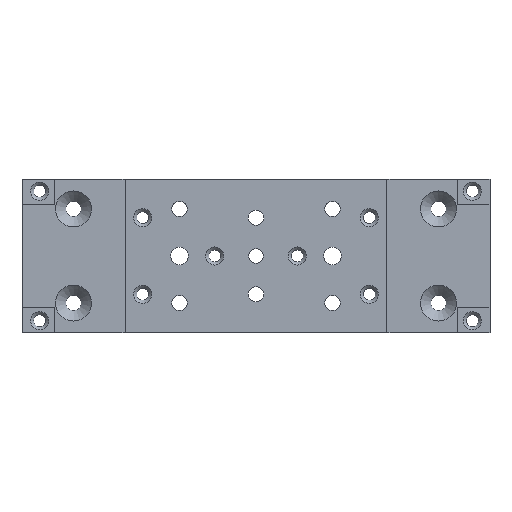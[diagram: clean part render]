
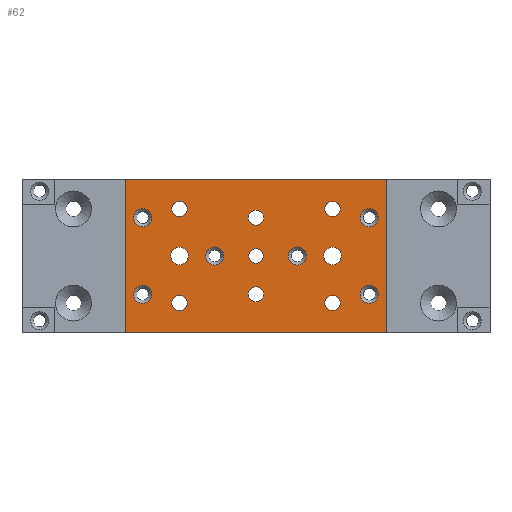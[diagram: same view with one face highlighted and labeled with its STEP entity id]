
A CAD part, top view. The second image highlights one B-rep face of the part: STEP entity #62.
In plain terms, the highlighted planar face has unit normal (0, 0, 1).
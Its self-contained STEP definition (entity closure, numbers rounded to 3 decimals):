
#62=ADVANCED_FACE('',(#637,#639,#641,#643,#645,#647,#649,#651,#653,#655,#657,#659,
#661,#663,#665,#667),#669,.T.);
#637=FACE_BOUND('',#638,.T.);
#638=EDGE_LOOP('',(#1236,#1237,#1238,#1239));
#639=FACE_BOUND('',#640,.T.);
#640=EDGE_LOOP('',(#1240));
#641=FACE_BOUND('',#642,.T.);
#642=EDGE_LOOP('',(#1241));
#643=FACE_BOUND('',#644,.T.);
#644=EDGE_LOOP('',(#1242));
#645=FACE_BOUND('',#646,.T.);
#646=EDGE_LOOP('',(#1243));
#647=FACE_BOUND('',#648,.T.);
#648=EDGE_LOOP('',(#1244));
#649=FACE_BOUND('',#650,.T.);
#650=EDGE_LOOP('',(#1245));
#651=FACE_BOUND('',#652,.T.);
#652=EDGE_LOOP('',(#1246));
#653=FACE_BOUND('',#654,.T.);
#654=EDGE_LOOP('',(#1247));
#655=FACE_BOUND('',#656,.T.);
#656=EDGE_LOOP('',(#1248));
#657=FACE_BOUND('',#658,.T.);
#658=EDGE_LOOP('',(#1249));
#659=FACE_BOUND('',#660,.T.);
#660=EDGE_LOOP('',(#1250));
#661=FACE_BOUND('',#662,.T.);
#662=EDGE_LOOP('',(#1251));
#663=FACE_BOUND('',#664,.T.);
#664=EDGE_LOOP('',(#1252));
#665=FACE_BOUND('',#666,.T.);
#666=EDGE_LOOP('',(#1253));
#667=FACE_BOUND('',#668,.T.);
#668=EDGE_LOOP('',(#1254));
#669=PLANE('',#670);
#670=AXIS2_PLACEMENT_3D('',#671,#672,#673);
#671=CARTESIAN_POINT('',(0.,0.,8.));
#672=DIRECTION('',(0.,0.,1.));
#673=DIRECTION('',(-1.,0.,0.));
#1236=ORIENTED_EDGE('',*,*,#1500,.T.);
#1237=ORIENTED_EDGE('',*,*,#1501,.T.);
#1238=ORIENTED_EDGE('',*,*,#1502,.T.);
#1239=ORIENTED_EDGE('',*,*,#1503,.T.);
#1240=ORIENTED_EDGE('',*,*,#1504,.T.);
#1241=ORIENTED_EDGE('',*,*,#1505,.T.);
#1242=ORIENTED_EDGE('',*,*,#1506,.T.);
#1243=ORIENTED_EDGE('',*,*,#1507,.T.);
#1244=ORIENTED_EDGE('',*,*,#1508,.T.);
#1245=ORIENTED_EDGE('',*,*,#1509,.T.);
#1246=ORIENTED_EDGE('',*,*,#1510,.T.);
#1247=ORIENTED_EDGE('',*,*,#1511,.T.);
#1248=ORIENTED_EDGE('',*,*,#1512,.T.);
#1249=ORIENTED_EDGE('',*,*,#1513,.T.);
#1250=ORIENTED_EDGE('',*,*,#1514,.T.);
#1251=ORIENTED_EDGE('',*,*,#1515,.T.);
#1252=ORIENTED_EDGE('',*,*,#1516,.T.);
#1253=ORIENTED_EDGE('',*,*,#1517,.T.);
#1254=ORIENTED_EDGE('',*,*,#1518,.T.);
#1500=EDGE_CURVE('',#1641,#1642,#1643,.T.);
#1501=EDGE_CURVE('',#1642,#1644,#1645,.F.);
#1502=EDGE_CURVE('',#1644,#1646,#1647,.T.);
#1503=EDGE_CURVE('',#1646,#1641,#1648,.F.);
#1504=EDGE_CURVE('',#1649,#1649,#1650,.F.);
#1505=EDGE_CURVE('',#1651,#1651,#1652,.F.);
#1506=EDGE_CURVE('',#1653,#1653,#1654,.F.);
#1507=EDGE_CURVE('',#1655,#1655,#1656,.F.);
#1508=EDGE_CURVE('',#1657,#1657,#1658,.F.);
#1509=EDGE_CURVE('',#1659,#1659,#1660,.F.);
#1510=EDGE_CURVE('',#1661,#1661,#1662,.F.);
#1511=EDGE_CURVE('',#1663,#1663,#1664,.F.);
#1512=EDGE_CURVE('',#1665,#1665,#1666,.F.);
#1513=EDGE_CURVE('',#1667,#1667,#1668,.F.);
#1514=EDGE_CURVE('',#1669,#1669,#1670,.F.);
#1515=EDGE_CURVE('',#1671,#1671,#1672,.F.);
#1516=EDGE_CURVE('',#1673,#1673,#1674,.F.);
#1517=EDGE_CURVE('',#1675,#1675,#1676,.F.);
#1518=EDGE_CURVE('',#1677,#1677,#1678,.F.);
#1641=VERTEX_POINT('',#1904);
#1642=VERTEX_POINT('',#1905);
#1643=LINE('',#1906,#1907);
#1644=VERTEX_POINT('',#1909);
#1645=LINE('',#1910,#1911);
#1646=VERTEX_POINT('',#1913);
#1647=LINE('',#1914,#1915);
#1648=LINE('',#1917,#1918);
#1649=VERTEX_POINT('',#1920);
#1650=CIRCLE('',#1921,3.067);
#1651=VERTEX_POINT('',#1925);
#1652=CIRCLE('',#1926,3.067);
#1653=VERTEX_POINT('',#1930);
#1654=CIRCLE('',#1931,3.067);
#1655=VERTEX_POINT('',#1935);
#1656=CIRCLE('',#1936,2.5);
#1657=VERTEX_POINT('',#1940);
#1658=CIRCLE('',#1941,2.6);
#1659=VERTEX_POINT('',#1945);
#1660=CIRCLE('',#1946,2.6);
#1661=VERTEX_POINT('',#1950);
#1662=CIRCLE('',#1951,2.6);
#1663=VERTEX_POINT('',#1955);
#1664=CIRCLE('',#1956,2.6);
#1665=VERTEX_POINT('',#1960);
#1666=CIRCLE('',#1961,2.6);
#1667=VERTEX_POINT('',#1965);
#1668=CIRCLE('',#1966,2.6);
#1669=VERTEX_POINT('',#1970);
#1670=CIRCLE('',#1971,3.);
#1671=VERTEX_POINT('',#1975);
#1672=CIRCLE('',#1976,3.);
#1673=VERTEX_POINT('',#1980);
#1674=CIRCLE('',#1981,3.067);
#1675=VERTEX_POINT('',#1985);
#1676=CIRCLE('',#1986,3.067);
#1677=VERTEX_POINT('',#1990);
#1678=CIRCLE('',#1991,3.067);
#1904=CARTESIAN_POINT('',(-44.5,-26.,8.));
#1905=CARTESIAN_POINT('',(44.5,-26.,8.));
#1906=CARTESIAN_POINT('',(-44.5,-26.,8.));
#1907=VECTOR('',#1908,1.);
#1908=DIRECTION('',(1.,0.,0.));
#1909=CARTESIAN_POINT('',(44.5,26.,8.));
#1910=CARTESIAN_POINT('',(44.5,26.,8.));
#1911=VECTOR('',#1912,1.);
#1912=DIRECTION('',(0.,-1.,0.));
#1913=CARTESIAN_POINT('',(-44.5,26.,8.));
#1914=CARTESIAN_POINT('',(44.5,26.,8.));
#1915=VECTOR('',#1916,1.);
#1916=DIRECTION('',(-1.,0.,0.));
#1917=CARTESIAN_POINT('',(-44.5,-26.,8.));
#1918=VECTOR('',#1919,1.);
#1919=DIRECTION('',(0.,1.,0.));
#1920=CARTESIAN_POINT('',(-41.567,-13.,8.));
#1921=AXIS2_PLACEMENT_3D('',#1922,#1923,#1924);
#1922=CARTESIAN_POINT('',(-38.5,-13.,8.));
#1923=DIRECTION('',(0.,0.,1.));
#1924=DIRECTION('',(-1.,0.,0.));
#1925=CARTESIAN_POINT('',(35.433,-13.,8.));
#1926=AXIS2_PLACEMENT_3D('',#1927,#1928,#1929);
#1927=CARTESIAN_POINT('',(38.5,-13.,8.));
#1928=DIRECTION('',(0.,0.,1.));
#1929=DIRECTION('',(-1.,0.,0.));
#1930=CARTESIAN_POINT('',(-14.,-3.067,8.));
#1931=AXIS2_PLACEMENT_3D('',#1932,#1933,#1934);
#1932=CARTESIAN_POINT('',(-14.,0.,8.));
#1933=DIRECTION('',(0.,0.,1.));
#1934=DIRECTION('',(0.,-1.,0.));
#1935=CARTESIAN_POINT('',(0.,-2.5,8.));
#1936=AXIS2_PLACEMENT_3D('',#1937,#1938,#1939);
#1937=CARTESIAN_POINT('',(0.,0.,8.));
#1938=DIRECTION('',(0.,0.,1.));
#1939=DIRECTION('',(0.,-1.,0.));
#1940=CARTESIAN_POINT('',(0.,-15.6,8.));
#1941=AXIS2_PLACEMENT_3D('',#1942,#1943,#1944);
#1942=CARTESIAN_POINT('',(0.,-13.,8.));
#1943=DIRECTION('',(0.,0.,1.));
#1944=DIRECTION('',(0.,-1.,0.));
#1945=CARTESIAN_POINT('',(0.,10.4,8.));
#1946=AXIS2_PLACEMENT_3D('',#1947,#1948,#1949);
#1947=CARTESIAN_POINT('',(0.,13.,8.));
#1948=DIRECTION('',(0.,0.,1.));
#1949=DIRECTION('',(0.,-1.,0.));
#1950=CARTESIAN_POINT('',(-26.,13.4,8.));
#1951=AXIS2_PLACEMENT_3D('',#1952,#1953,#1954);
#1952=CARTESIAN_POINT('',(-26.,16.,8.));
#1953=DIRECTION('',(0.,0.,1.));
#1954=DIRECTION('',(0.,-1.,0.));
#1955=CARTESIAN_POINT('',(26.,13.4,8.));
#1956=AXIS2_PLACEMENT_3D('',#1957,#1958,#1959);
#1957=CARTESIAN_POINT('',(26.,16.,8.));
#1958=DIRECTION('',(0.,0.,1.));
#1959=DIRECTION('',(0.,-1.,0.));
#1960=CARTESIAN_POINT('',(-26.,-18.6,8.));
#1961=AXIS2_PLACEMENT_3D('',#1962,#1963,#1964);
#1962=CARTESIAN_POINT('',(-26.,-16.,8.));
#1963=DIRECTION('',(0.,0.,1.));
#1964=DIRECTION('',(0.,-1.,0.));
#1965=CARTESIAN_POINT('',(26.,-18.6,8.));
#1966=AXIS2_PLACEMENT_3D('',#1967,#1968,#1969);
#1967=CARTESIAN_POINT('',(26.,-16.,8.));
#1968=DIRECTION('',(0.,0.,1.));
#1969=DIRECTION('',(0.,-1.,0.));
#1970=CARTESIAN_POINT('',(26.,-3.,8.));
#1971=AXIS2_PLACEMENT_3D('',#1972,#1973,#1974);
#1972=CARTESIAN_POINT('',(26.,0.,8.));
#1973=DIRECTION('',(0.,0.,1.));
#1974=DIRECTION('',(0.,-1.,0.));
#1975=CARTESIAN_POINT('',(-26.,-3.,8.));
#1976=AXIS2_PLACEMENT_3D('',#1977,#1978,#1979);
#1977=CARTESIAN_POINT('',(-26.,0.,8.));
#1978=DIRECTION('',(0.,0.,1.));
#1979=DIRECTION('',(0.,-1.,0.));
#1980=CARTESIAN_POINT('',(-41.567,13.,8.));
#1981=AXIS2_PLACEMENT_3D('',#1982,#1983,#1984);
#1982=CARTESIAN_POINT('',(-38.5,13.,8.));
#1983=DIRECTION('',(0.,0.,1.));
#1984=DIRECTION('',(-1.,0.,0.));
#1985=CARTESIAN_POINT('',(35.433,13.,8.));
#1986=AXIS2_PLACEMENT_3D('',#1987,#1988,#1989);
#1987=CARTESIAN_POINT('',(38.5,13.,8.));
#1988=DIRECTION('',(0.,0.,1.));
#1989=DIRECTION('',(-1.,0.,0.));
#1990=CARTESIAN_POINT('',(14.,-3.067,8.));
#1991=AXIS2_PLACEMENT_3D('',#1992,#1993,#1994);
#1992=CARTESIAN_POINT('',(14.,0.,8.));
#1993=DIRECTION('',(0.,0.,1.));
#1994=DIRECTION('',(0.,-1.,0.));
